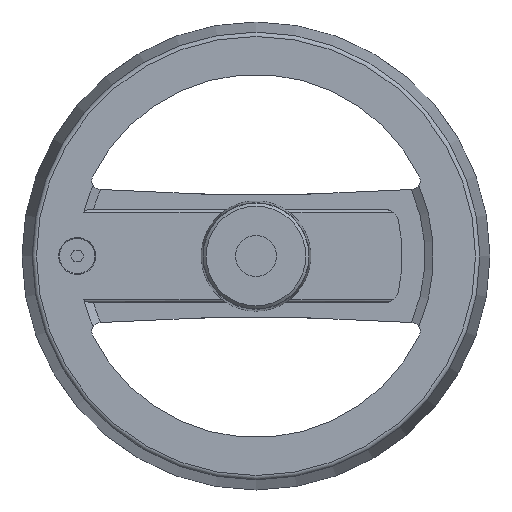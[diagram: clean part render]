
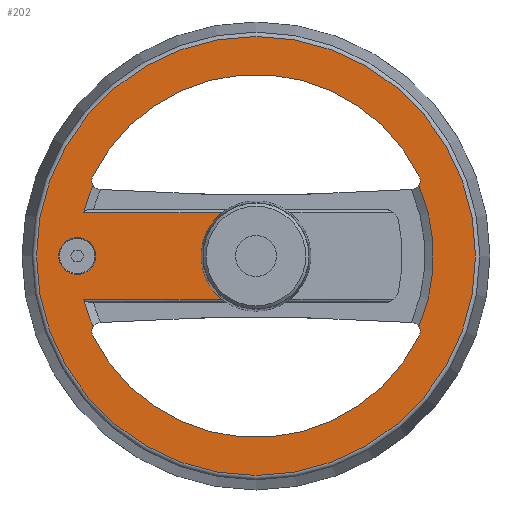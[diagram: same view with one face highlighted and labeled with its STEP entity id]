
A CAD part, left-side view. The second image highlights one B-rep face of the part: STEP entity #202.
In plain terms, the highlighted planar face has unit normal (-1, 0, 0).
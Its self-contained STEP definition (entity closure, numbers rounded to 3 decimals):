
#202 = ADVANCED_FACE( '', ( #353, #354, #355 ), #356, .F. );
#353 = FACE_OUTER_BOUND( '', #616, .T. );
#354 = FACE_BOUND( '', #617, .T. );
#355 = FACE_BOUND( '', #618, .T. );
#356 = PLANE( '', #619 );
#616 = EDGE_LOOP( '', ( #1084 ) );
#617 = EDGE_LOOP( '', ( #1085 ) );
#618 = EDGE_LOOP( '', ( #1086, #1087, #1088, #1089, #1090, #1091, #1092, #1093, #1094, #1095, #1096, #1097 ) );
#619 = AXIS2_PLACEMENT_3D( '', #1098, #1099, #1100 );
#1084 = ORIENTED_EDGE( '', *, *, #1740, .F. );
#1085 = ORIENTED_EDGE( '', *, *, #1741, .T. );
#1086 = ORIENTED_EDGE( '', *, *, #1699, .F. );
#1087 = ORIENTED_EDGE( '', *, *, #1697, .F. );
#1088 = ORIENTED_EDGE( '', *, *, #1695, .F. );
#1089 = ORIENTED_EDGE( '', *, *, #1742, .T. );
#1090 = ORIENTED_EDGE( '', *, *, #1703, .F. );
#1091 = ORIENTED_EDGE( '', *, *, #1743, .F. );
#1092 = ORIENTED_EDGE( '', *, *, #1744, .F. );
#1093 = ORIENTED_EDGE( '', *, *, #1745, .T. );
#1094 = ORIENTED_EDGE( '', *, *, #1746, .T. );
#1095 = ORIENTED_EDGE( '', *, *, #1715, .F. );
#1096 = ORIENTED_EDGE( '', *, *, #1747, .F. );
#1097 = ORIENTED_EDGE( '', *, *, #1748, .T. );
#1098 = CARTESIAN_POINT( '', ( 21.2, 62., -14.74 ) );
#1099 = DIRECTION( '', ( 1., 0., 0. ) );
#1100 = DIRECTION( '', ( 0., 0., -1. ) );
#1695 = EDGE_CURVE( '', #2001, #2003, #2004, .F. );
#1697 = EDGE_CURVE( '', #2003, #2006, #2007, .F. );
#1699 = EDGE_CURVE( '', #2006, #2009, #2010, .F. );
#1703 = EDGE_CURVE( '', #2014, #2016, #2017, .F. );
#1715 = EDGE_CURVE( '', #2037, #2038, #2039, .F. );
#1740 = EDGE_CURVE( '', #2081, #2081, #2082, .T. );
#1741 = EDGE_CURVE( '', #2083, #2083, #2084, .T. );
#1742 = EDGE_CURVE( '', #2001, #2016, #2085, .T. );
#1743 = EDGE_CURVE( '', #2086, #2014, #2087, .F. );
#1744 = EDGE_CURVE( '', #2088, #2086, #2089, .F. );
#1745 = EDGE_CURVE( '', #2088, #2090, #2091, .T. );
#1746 = EDGE_CURVE( '', #2090, #2038, #2092, .T. );
#1747 = EDGE_CURVE( '', #2093, #2037, #2094, .T. );
#1748 = EDGE_CURVE( '', #2093, #2009, #2095, .T. );
#2001 = VERTEX_POINT( '', #2720 );
#2003 = VERTEX_POINT( '', #2731 );
#2004 = CIRCLE( '', #2732, 2.97 );
#2006 = VERTEX_POINT( '', #2735 );
#2007 = CIRCLE( '', #2736, 61.94 );
#2009 = VERTEX_POINT( '', #2739 );
#2010 = CIRCLE( '', #2740, 2.97 );
#2014 = VERTEX_POINT( '', #2754 );
#2016 = VERTEX_POINT( '', #2757 );
#2017 = CIRCLE( '', #2758, 2.97 );
#2037 = VERTEX_POINT( '', #2821 );
#2038 = VERTEX_POINT( '', #2822 );
#2039 = CIRCLE( '', #2823, 18.74 );
#2081 = VERTEX_POINT( '', #2920 );
#2082 = CIRCLE( '', #2921, 74.9 );
#2083 = VERTEX_POINT( '', #2922 );
#2084 = CIRCLE( '', #2923, 6.3 );
#2085 = CIRCLE( '', #2924, 60.57 );
#2086 = VERTEX_POINT( '', #2925 );
#2087 = CIRCLE( '', #2926, 61.94 );
#2088 = VERTEX_POINT( '', #2927 );
#2089 = CIRCLE( '', #2928, 2.97 );
#2090 = VERTEX_POINT( '', #2929 );
#2091 = CIRCLE( '', #2930, 60.57 );
#2092 = LINE( '', #2931, #2932 );
#2093 = VERTEX_POINT( '', #2933 );
#2094 = LINE( '', #2934, #2935 );
#2095 = CIRCLE( '', #2936, 60.57 );
#2720 = CARTESIAN_POINT( '', ( 21.2, -55.586, 24.061 ) );
#2731 = CARTESIAN_POINT( '', ( 21.2, -55.745, 27.002 ) );
#2732 = AXIS2_PLACEMENT_3D( '', #3342, #3343, #3344 );
#2735 = CARTESIAN_POINT( '', ( 21.2, 55.745, 27.002 ) );
#2736 = AXIS2_PLACEMENT_3D( '', #3346, #3347, #3348 );
#2739 = CARTESIAN_POINT( '', ( 21.2, 55.586, 24.061 ) );
#2740 = AXIS2_PLACEMENT_3D( '', #3350, #3351, #3352 );
#2754 = CARTESIAN_POINT( '', ( 21.2, -55.745, -27.002 ) );
#2757 = CARTESIAN_POINT( '', ( 21.2, -55.586, -24.061 ) );
#2758 = AXIS2_PLACEMENT_3D( '', #3355, #3356, #3357 );
#2821 = CARTESIAN_POINT( '', ( 21.2, 11.573, 14.74 ) );
#2822 = CARTESIAN_POINT( '', ( 21.2, 11.573, -14.74 ) );
#2823 = AXIS2_PLACEMENT_3D( '', #3368, #3369, #3370 );
#2920 = CARTESIAN_POINT( '', ( 21.2, 0., -74.9 ) );
#2921 = AXIS2_PLACEMENT_3D( '', #3416, #3417, #3418 );
#2922 = CARTESIAN_POINT( '', ( 21.2, 61., -6.3 ) );
#2923 = AXIS2_PLACEMENT_3D( '', #3419, #3420, #3421 );
#2924 = AXIS2_PLACEMENT_3D( '', #3422, #3423, #3424 );
#2925 = CARTESIAN_POINT( '', ( 21.2, 55.745, -27.002 ) );
#2926 = AXIS2_PLACEMENT_3D( '', #3425, #3426, #3427 );
#2927 = CARTESIAN_POINT( '', ( 21.2, 55.586, -24.061 ) );
#2928 = AXIS2_PLACEMENT_3D( '', #3428, #3429, #3430 );
#2929 = CARTESIAN_POINT( '', ( 21.2, 58.749, -14.74 ) );
#2930 = AXIS2_PLACEMENT_3D( '', #3431, #3432, #3433 );
#2931 = CARTESIAN_POINT( '', ( 21.2, 62., -14.74 ) );
#2932 = VECTOR( '', #3434, 1000. );
#2933 = CARTESIAN_POINT( '', ( 21.2, 58.749, 14.74 ) );
#2934 = CARTESIAN_POINT( '', ( 21.2, 62., 14.74 ) );
#2935 = VECTOR( '', #3435, 1000. );
#2936 = AXIS2_PLACEMENT_3D( '', #3436, #3437, #3438 );
#3342 = CARTESIAN_POINT( '', ( 21.2, -53.09, 25.67 ) );
#3343 = DIRECTION( '', ( 1., 0., 0. ) );
#3344 = DIRECTION( '', ( 0., 0., -1. ) );
#3346 = CARTESIAN_POINT( '', ( 21.2, 0., 0. ) );
#3347 = DIRECTION( '', ( 1., 0., 0. ) );
#3348 = DIRECTION( '', ( 0., 0., -1. ) );
#3350 = CARTESIAN_POINT( '', ( 21.2, 53.09, 25.67 ) );
#3351 = DIRECTION( '', ( 1., 0., 0. ) );
#3352 = DIRECTION( '', ( 0., 0., -1. ) );
#3355 = CARTESIAN_POINT( '', ( 21.2, -53.09, -25.67 ) );
#3356 = DIRECTION( '', ( 1., 0., 0. ) );
#3357 = DIRECTION( '', ( 0., 0., -1. ) );
#3368 = CARTESIAN_POINT( '', ( 21.2, 0., 0. ) );
#3369 = DIRECTION( '', ( 1., 0., 0. ) );
#3370 = DIRECTION( '', ( 0., 0., -1. ) );
#3416 = CARTESIAN_POINT( '', ( 21.2, 0., 0. ) );
#3417 = DIRECTION( '', ( 1., 0., 0. ) );
#3418 = DIRECTION( '', ( 0., 0., -1. ) );
#3419 = CARTESIAN_POINT( '', ( 21.2, 61., 0. ) );
#3420 = DIRECTION( '', ( 1., 0., 0. ) );
#3421 = DIRECTION( '', ( 0., 0., -1. ) );
#3422 = CARTESIAN_POINT( '', ( 21.2, 0., 0. ) );
#3423 = DIRECTION( '', ( 1., 0., 0. ) );
#3424 = DIRECTION( '', ( 0., 0., -1. ) );
#3425 = CARTESIAN_POINT( '', ( 21.2, 0., 0. ) );
#3426 = DIRECTION( '', ( 1., 0., 0. ) );
#3427 = DIRECTION( '', ( 0., 0., -1. ) );
#3428 = CARTESIAN_POINT( '', ( 21.2, 53.09, -25.67 ) );
#3429 = DIRECTION( '', ( 1., 0., 0. ) );
#3430 = DIRECTION( '', ( 0., 0., -1. ) );
#3431 = CARTESIAN_POINT( '', ( 21.2, 0., 0. ) );
#3432 = DIRECTION( '', ( 1., 0., 0. ) );
#3433 = DIRECTION( '', ( 0., 0., -1. ) );
#3434 = DIRECTION( '', ( 0., -1., 0. ) );
#3435 = DIRECTION( '', ( 0., -1., 0. ) );
#3436 = CARTESIAN_POINT( '', ( 21.2, 0., 0. ) );
#3437 = DIRECTION( '', ( 1., 0., 0. ) );
#3438 = DIRECTION( '', ( 0., 0., -1. ) );
